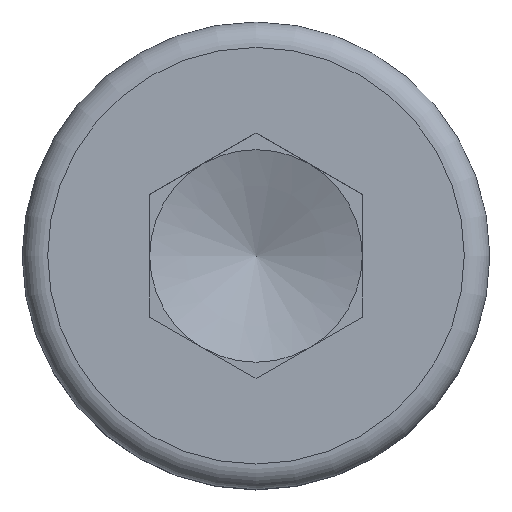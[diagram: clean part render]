
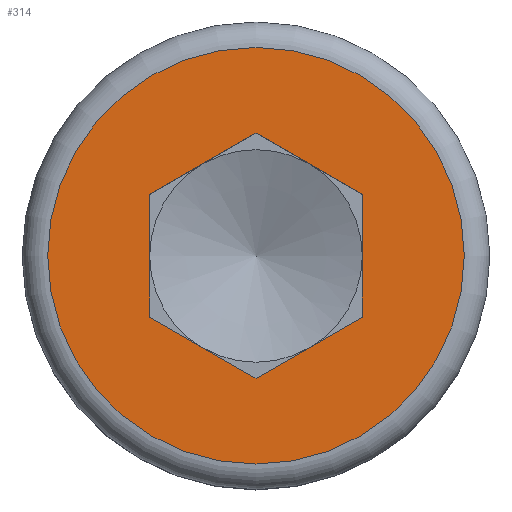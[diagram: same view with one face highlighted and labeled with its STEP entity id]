
A CAD part, top view. The second image highlights one B-rep face of the part: STEP entity #314.
In plain terms, the highlighted planar face has unit normal (0, 0, 1).
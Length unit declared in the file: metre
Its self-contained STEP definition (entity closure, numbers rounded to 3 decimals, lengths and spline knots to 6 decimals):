
#26=CIRCLE('',#356,0.00245);
#51=ORIENTED_EDGE('',*,*,#129,.T.);
#52=ORIENTED_EDGE('',*,*,#130,.T.);
#53=ORIENTED_EDGE('',*,*,#131,.T.);
#54=ORIENTED_EDGE('',*,*,#132,.T.);
#55=ORIENTED_EDGE('',*,*,#133,.T.);
#56=ORIENTED_EDGE('',*,*,#134,.T.);
#57=ORIENTED_EDGE('',*,*,#135,.T.);
#129=EDGE_CURVE('',#164,#164,#26,.T.);
#130=EDGE_CURVE('',#165,#166,#191,.T.);
#131=EDGE_CURVE('',#166,#167,#192,.T.);
#132=EDGE_CURVE('',#167,#168,#193,.T.);
#133=EDGE_CURVE('',#168,#169,#194,.T.);
#134=EDGE_CURVE('',#169,#170,#195,.T.);
#135=EDGE_CURVE('',#170,#165,#196,.T.);
#164=VERTEX_POINT('',#519);
#165=VERTEX_POINT('',#521);
#166=VERTEX_POINT('',#522);
#167=VERTEX_POINT('',#524);
#168=VERTEX_POINT('',#526);
#169=VERTEX_POINT('',#528);
#170=VERTEX_POINT('',#530);
#191=LINE('',#520,#215);
#192=LINE('',#523,#216);
#193=LINE('',#525,#217);
#194=LINE('',#527,#218);
#195=LINE('',#529,#219);
#196=LINE('',#531,#220);
#215=VECTOR('',#419,1.);
#216=VECTOR('',#420,1.);
#217=VECTOR('',#421,1.);
#218=VECTOR('',#422,1.);
#219=VECTOR('',#423,1.);
#220=VECTOR('',#424,1.);
#234=EDGE_LOOP('',(#51));
#235=EDGE_LOOP('',(#52,#53,#54,#55,#56,#57));
#266=FACE_BOUND('',#234,.T.);
#267=FACE_BOUND('',#235,.T.);
#299=PLANE('',#355);
#314=ADVANCED_FACE('',(#266,#267),#299,.F.);
#355=AXIS2_PLACEMENT_3D('',#517,#415,#416);
#356=AXIS2_PLACEMENT_3D('',#518,#417,#418);
#415=DIRECTION('',(0.,0.,-1.));
#416=DIRECTION('',(-1.,0.,0.));
#417=DIRECTION('',(0.,0.,1.));
#418=DIRECTION('',(1.,0.,0.));
#419=DIRECTION('',(0.,-1.,0.));
#420=DIRECTION('',(-0.866,-0.5,0.));
#421=DIRECTION('',(-0.866,0.5,0.));
#422=DIRECTION('',(0.,1.,0.));
#423=DIRECTION('',(0.866,0.5,0.));
#424=DIRECTION('',(0.866,-0.5,0.));
#517=CARTESIAN_POINT('',(-0.001102,0.,0.));
#518=CARTESIAN_POINT('',(0.,0.,0.));
#519=CARTESIAN_POINT('',(0.00245,0.,0.));
#520=CARTESIAN_POINT('',(0.00125,0.,0.));
#521=CARTESIAN_POINT('',(0.00125,0.000722,0.));
#522=CARTESIAN_POINT('',(0.00125,-0.000722,0.));
#523=CARTESIAN_POINT('',(0.000596,-0.001099,0.));
#524=CARTESIAN_POINT('',(0.,-0.001443,0.));
#525=CARTESIAN_POINT('',(-0.000625,-0.001083,0.));
#526=CARTESIAN_POINT('',(-0.00125,-0.000722,0.));
#527=CARTESIAN_POINT('',(-0.00125,0.,0.));
#528=CARTESIAN_POINT('',(-0.00125,0.000722,0.));
#529=CARTESIAN_POINT('',(-0.000618,0.001087,0.));
#530=CARTESIAN_POINT('',(0.,0.001443,0.));
#531=CARTESIAN_POINT('',(0.000625,0.001083,0.));
